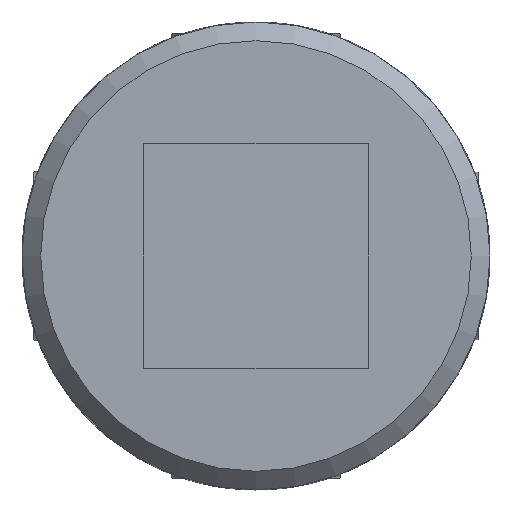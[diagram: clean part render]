
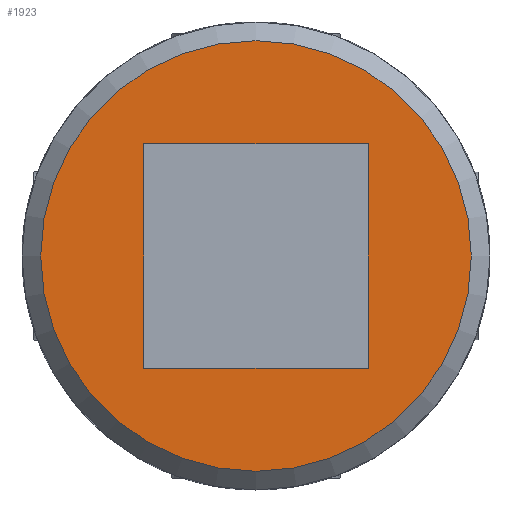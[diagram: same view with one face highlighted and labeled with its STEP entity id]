
A CAD part, front view. The second image highlights one B-rep face of the part: STEP entity #1923.
In plain terms, the highlighted planar face has unit normal (0, -1, 0).
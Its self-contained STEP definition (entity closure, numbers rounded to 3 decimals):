
#111=LINE('',#3587,#175);
#115=LINE('',#3610,#179);
#122=LINE('',#3637,#186);
#125=LINE('',#3664,#189);
#175=VECTOR('',#2496,12.);
#179=VECTOR('',#2504,12.);
#186=VECTOR('',#2519,12.);
#189=VECTOR('',#2524,12.);
#240=PLANE('',#2119);
#421=FACE_BOUND('',#671,.T.);
#518=FACE_OUTER_BOUND('',#670,.T.);
#670=EDGE_LOOP('',(#1679));
#671=EDGE_LOOP('',(#1680,#1681,#1682,#1683));
#774=CIRCLE('',#2117,11.5);
#918=VERTEX_POINT('',#3584);
#919=VERTEX_POINT('',#3586);
#925=VERTEX_POINT('',#3609);
#935=VERTEX_POINT('',#3635);
#942=VERTEX_POINT('',#3719);
#1158=EDGE_CURVE('',#919,#918,#111,.T.);
#1165=EDGE_CURVE('',#925,#919,#115,.T.);
#1177=EDGE_CURVE('',#918,#935,#122,.T.);
#1183=EDGE_CURVE('',#935,#925,#125,.T.);
#1194=EDGE_CURVE('',#942,#942,#774,.T.);
#1679=ORIENTED_EDGE('',*,*,#1194,.F.);
#1680=ORIENTED_EDGE('',*,*,#1177,.T.);
#1681=ORIENTED_EDGE('',*,*,#1183,.T.);
#1682=ORIENTED_EDGE('',*,*,#1165,.T.);
#1683=ORIENTED_EDGE('',*,*,#1158,.T.);
#1923=ADVANCED_FACE('',(#518,#421),#240,.F.);
#2117=AXIS2_PLACEMENT_3D('',#3720,#2553,#2554);
#2119=AXIS2_PLACEMENT_3D('',#3936,#2561,#2562);
#2496=DIRECTION('',(-1.,0.,0.));
#2504=DIRECTION('',(0.,0.,-1.));
#2519=DIRECTION('',(0.,0.,1.));
#2524=DIRECTION('',(1.,0.,0.));
#2553=DIRECTION('center_axis',(0.,1.,0.));
#2554=DIRECTION('ref_axis',(1.,0.,0.));
#2561=DIRECTION('center_axis',(0.,1.,0.));
#2562=DIRECTION('ref_axis',(0.,0.,1.));
#3584=CARTESIAN_POINT('',(-6.,-43.5,-6.));
#3586=CARTESIAN_POINT('',(6.,-43.5,-6.));
#3587=CARTESIAN_POINT('',(3.,-43.5,-6.));
#3609=CARTESIAN_POINT('',(6.,-43.5,6.));
#3610=CARTESIAN_POINT('',(6.,-43.5,3.));
#3635=CARTESIAN_POINT('',(-6.,-43.5,6.));
#3637=CARTESIAN_POINT('',(-6.,-43.5,-3.));
#3664=CARTESIAN_POINT('',(-3.,-43.5,6.));
#3719=CARTESIAN_POINT('',(-11.5,-43.5,0.));
#3720=CARTESIAN_POINT('Origin',(0.,-43.5,0.));
#3936=CARTESIAN_POINT('Origin',(0.,-43.5,0.));
